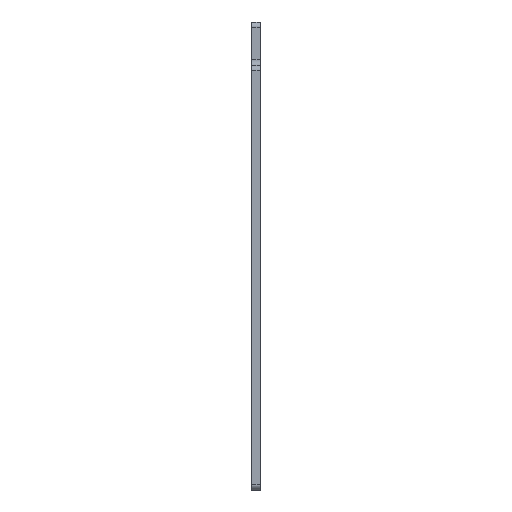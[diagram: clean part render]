
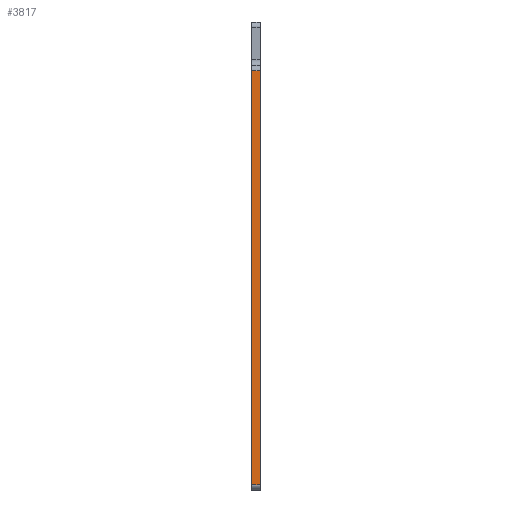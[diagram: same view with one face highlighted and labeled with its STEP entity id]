
A CAD part, left-side view. The second image highlights one B-rep face of the part: STEP entity #3817.
In plain terms, the highlighted planar face has unit normal (-1, 0, 0).
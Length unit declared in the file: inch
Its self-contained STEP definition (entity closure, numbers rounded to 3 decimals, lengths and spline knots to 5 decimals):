
#281=PLANE('',#4160);
#317=FACE_OUTER_BOUND('',#627,.T.);
#627=EDGE_LOOP('',(#2789,#2790,#2791,#2792));
#948=LINE('',#5732,#1190);
#970=LINE('',#6047,#1212);
#971=LINE('',#6050,#1213);
#972=LINE('',#6051,#1214);
#1190=VECTOR('',#4530,0.3937);
#1212=VECTOR('',#4826,0.3937);
#1213=VECTOR('',#4829,0.3937);
#1214=VECTOR('',#4830,0.3937);
#1734=VERTEX_POINT('',#5729);
#1735=VERTEX_POINT('',#5731);
#1890=VERTEX_POINT('',#6043);
#1892=VERTEX_POINT('',#6049);
#2092=EDGE_CURVE('',#1735,#1734,#948,.T.);
#2250=EDGE_CURVE('',#1735,#1890,#970,.T.);
#2251=EDGE_CURVE('',#1892,#1734,#971,.T.);
#2252=EDGE_CURVE('',#1890,#1892,#972,.T.);
#2789=ORIENTED_EDGE('',*,*,#2250,.F.);
#2790=ORIENTED_EDGE('',*,*,#2092,.T.);
#2791=ORIENTED_EDGE('',*,*,#2251,.F.);
#2792=ORIENTED_EDGE('',*,*,#2252,.F.);
#3817=ADVANCED_FACE('',(#317),#281,.T.);
#4160=AXIS2_PLACEMENT_3D('',#6048,#4827,#4828);
#4530=DIRECTION('',(0.,0.,1.));
#4826=DIRECTION('',(0.,1.,0.));
#4827=DIRECTION('center_axis',(-1.,0.,0.));
#4828=DIRECTION('ref_axis',(0.,0.,1.));
#4829=DIRECTION('',(0.,-1.,0.));
#4830=DIRECTION('',(0.,0.,1.));
#5729=CARTESIAN_POINT('',(0.,0.,-0.5625));
#5731=CARTESIAN_POINT('',(0.,0.,-5.3375));
#5732=CARTESIAN_POINT('',(0.,0.,-5.4));
#6043=CARTESIAN_POINT('',(0.,0.093,-5.3375));
#6047=CARTESIAN_POINT('',(0.,0.,-5.3375));
#6048=CARTESIAN_POINT('Origin',(0.,0.,-5.4));
#6049=CARTESIAN_POINT('',(0.,0.093,-0.5625));
#6050=CARTESIAN_POINT('',(0.,0.,-0.5625));
#6051=CARTESIAN_POINT('',(0.,0.093,-5.4));
